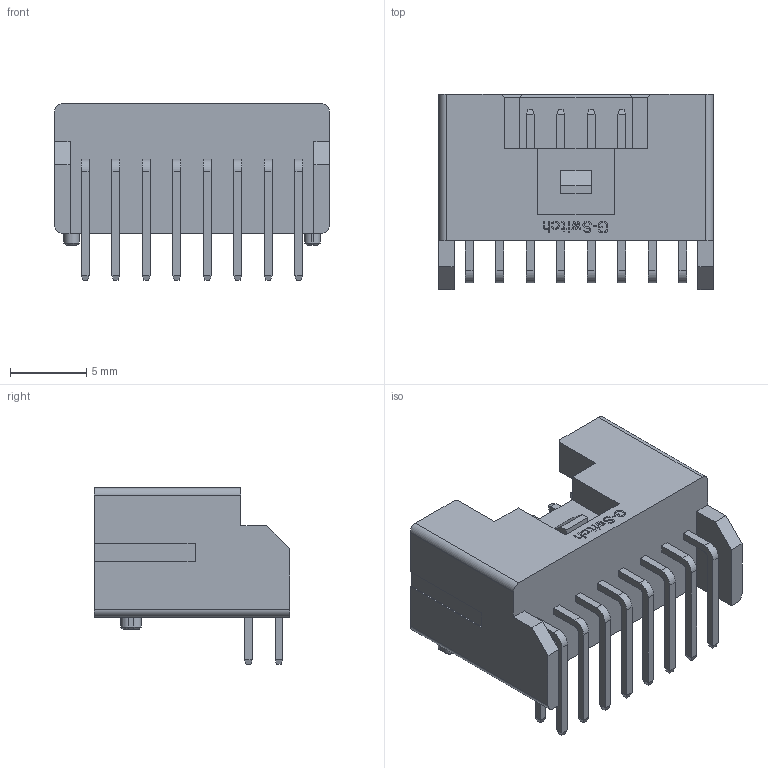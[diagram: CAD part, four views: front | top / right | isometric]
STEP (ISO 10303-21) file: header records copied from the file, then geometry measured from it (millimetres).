
FILE_DESCRIPTION((''),'2;1');
FILE_NAME('WRD-216','2026-06-08T',('WYH'),(''),'PRO/ENGINEER BY PARAMETRIC TECHNOLOGY CORPORATION, 2013040','PRO/ENGINEER BY PARAMETRIC TECHNOLOGY CORPORATION, 2013040','');
FILE_SCHEMA(('CONFIG_CONTROL_DESIGN'));
Length unit declared in the file: millimetre
Products named in the file (1): WRD-216
Bounding box: 18 x 12.8 x 11.6 mm (x, y, z)
Volume: 723.6 mm3; surface area: 1716.6 mm2
Topology: 1 solids, 1 shells, 661 faces, 1683 edges, 1070 vertices
Faces by surface type: plane 617, cylinder 40, cone 4
Entity records: 19431 total; most frequent: CARTESIAN_POINT 3414, ORIENTED_EDGE 3366, DIRECTION 3089, EDGE_CURVE 1683, VECTOR 1599, LINE 1599, VERTEX_POINT 1070, AXIS2_PLACEMENT_3D 745
